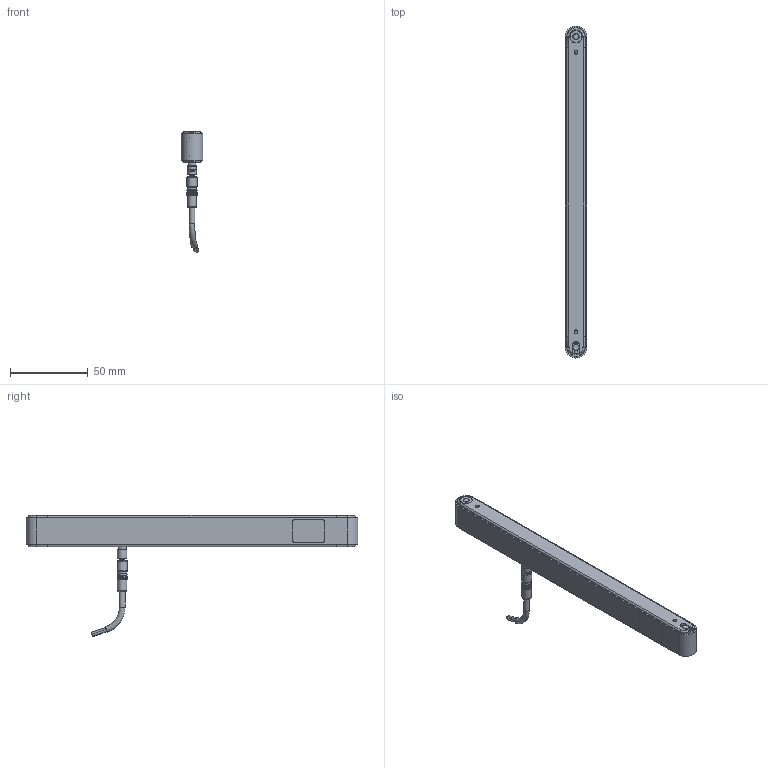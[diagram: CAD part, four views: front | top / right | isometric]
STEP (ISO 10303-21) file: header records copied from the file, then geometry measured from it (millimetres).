
FILE_DESCRIPTION(/* description */ (''),/* implementation_level */ '2;1');
FILE_NAME(/* name */ 'G:\DATEN\CAD\Förderband\Marketing\3D-Modelle (Standard)\FR-12-20\FR-12-20-DL-200-K.stp',/* time_stamp */ '2019-05-07T13:24:02+02:00',/* author */ ('melanie.ochs'),/* organization */ (''),/* preprocessor_version */ 'ST-DEVELOPER v17',/* originating_system */ 'Autodesk Inventor 2019',/* authorisation */ '');
FILE_SCHEMA (('CONFIG_CONTROL_DESIGN'));
Length unit declared in the file: millimetre
Products named in the file (1): FR-12-20-DL-200-K
Bounding box: 13.8 x 213.8 x 77.93 mm (x, y, z)
Volume: 56916.7 mm3; surface area: 33894.3 mm2
Topology: 15 solids, 15 shells, 497 faces, 1283 edges, 845 vertices
Faces by surface type: plane 217, cylinder 118, bspline 64, cone 55, torus 39, sphere 4
Full cylindrical faces by diameter (mm): 0.48 x4, 0.5 x4, 0.52 x4, 0.6 x4, 1 x7, 2 x2, 2.459 x4, 3.15 x1, 3.4 x1, 3.7 x1, 4 x5, 4.4 x1, 4.5 x2, 5 x3, 5.2 x1, 5.5 x2, 6 x5, 6.5 x1, 8 x6, 9.2 x4, 12 x3
Entity records: 16518 total; most frequent: CARTESIAN_POINT 4027, ORIENTED_EDGE 2524, DIRECTION 2442, EDGE_CURVE 1262, AXIS2_PLACEMENT_3D 950, VERTEX_POINT 845, EDGE_LOOP 553, LINE 542
